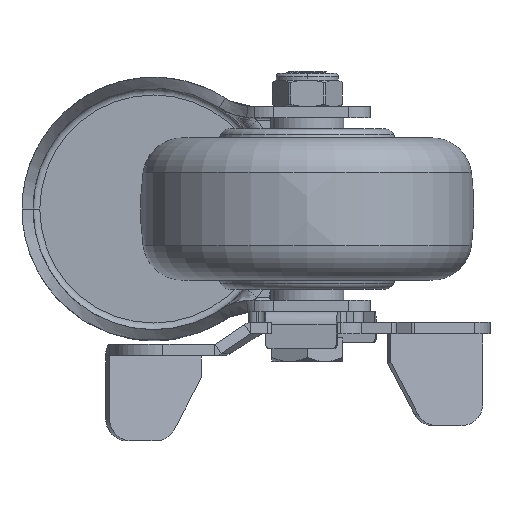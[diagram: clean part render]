
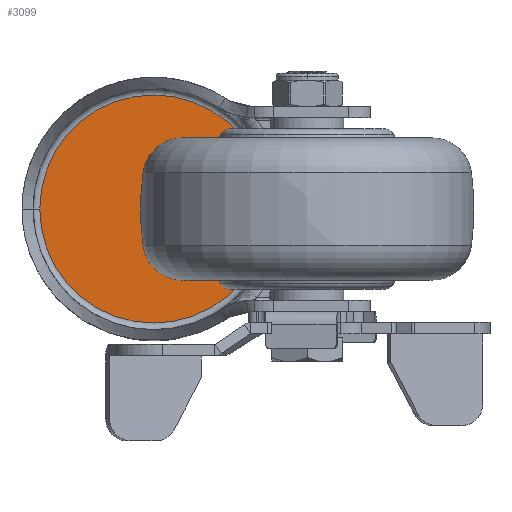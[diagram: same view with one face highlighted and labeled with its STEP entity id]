
A CAD part, front view. The second image highlights one B-rep face of the part: STEP entity #3099.
In plain terms, the highlighted planar face has unit normal (0, -1, 0).
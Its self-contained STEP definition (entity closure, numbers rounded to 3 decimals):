
#888=CARTESIAN_POINT('',(0.,-14.3,0.));
#889=DIRECTION('',(0.,1.,0.));
#890=DIRECTION('',(-1.,0.,0.));
#891=AXIS2_PLACEMENT_3D('',#888,#889,#890);
#893=CARTESIAN_POINT('',(0.,-14.3,0.));
#894=DIRECTION('',(0.,-1.,0.));
#895=DIRECTION('',(-1.,0.,0.));
#896=AXIS2_PLACEMENT_3D('',#893,#894,#895);
#1271=CARTESIAN_POINT('',(-25.652,-14.3,0.));
#1273=VERTEX_POINT('',#1271);
#1275=CARTESIAN_POINT('',(25.652,-14.3,0.));
#1277=VERTEX_POINT('',#1275);
#3090=CARTESIAN_POINT('',(0.,-14.3,0.));
#3091=DIRECTION('',(0.,-1.,0.));
#3092=DIRECTION('',(-1.,0.,0.));
#3093=AXIS2_PLACEMENT_3D('',#3090,#3091,#3092);
#3094=PLANE('',#3093);
#3095=ORIENTED_EDGE('',*,*,#3072,.T.);
#3096=ORIENTED_EDGE('',*,*,#3083,.F.);
#3097=EDGE_LOOP('',(#3095,#3096));
#3098=FACE_OUTER_BOUND('',#3097,.F.);
#892=CIRCLE('',#891,25.652);
#897=CIRCLE('',#896,25.652);
#3072=EDGE_CURVE('',#1273,#1277,#892,.T.);
#3083=EDGE_CURVE('',#1273,#1277,#897,.T.);
#3099=ADVANCED_FACE('',(#3098),#3094,.T.);
